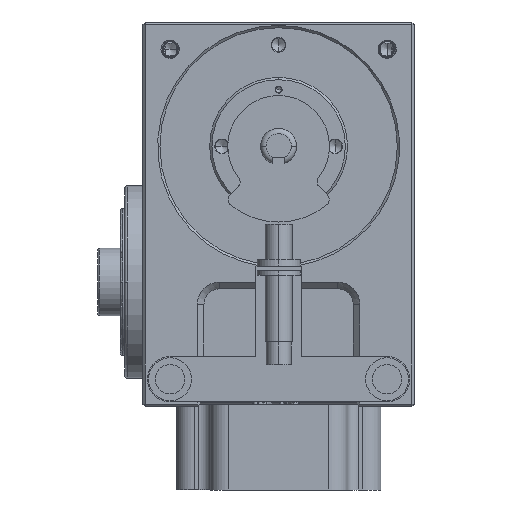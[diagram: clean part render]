
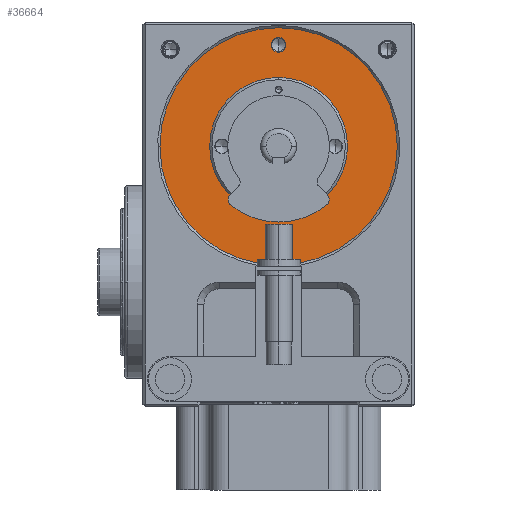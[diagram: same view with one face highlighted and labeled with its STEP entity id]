
A CAD part, left-side view. The second image highlights one B-rep face of the part: STEP entity #36664.
In plain terms, the highlighted planar face has unit normal (-1, 0, 0).
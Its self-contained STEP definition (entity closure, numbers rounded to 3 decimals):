
#2998 = DIRECTION ( 'NONE',  ( 0., -1., 0. ) ) ;
#3156 = AXIS2_PLACEMENT_3D ( 'NONE', #175864, #89046, #2998 ) ;
#9456 = CIRCLE ( 'NONE', #122019, 30.5 ) ;
#10183 = EDGE_LOOP ( 'NONE', ( #61128, #124526 ) ) ;
#10939 = DIRECTION ( 'NONE',  ( 0., 0., -1. ) ) ;
#12527 = CIRCLE ( 'NONE', #156099, 30.5 ) ;
#14605 = VERTEX_POINT ( 'NONE', #60971 ) ;
#20486 = AXIS2_PLACEMENT_3D ( 'NONE', #112021, #25722, #126603 ) ;
#22282 = DIRECTION ( 'NONE',  ( -1., 0., 0. ) ) ;
#25381 = EDGE_LOOP ( 'NONE', ( #124784, #158789 ) ) ;
#25722 = DIRECTION ( 'NONE',  ( -1., 0., 0. ) ) ;
#27286 = FACE_OUTER_BOUND ( 'NONE', #25381, .T. ) ;
#30463 = VERTEX_POINT ( 'NONE', #47532 ) ;
#31021 = CARTESIAN_POINT ( 'NONE',  ( -121., 3.25, 44.929 ) ) ;
#35375 = CIRCLE ( 'NONE', #37763, 52.5 ) ;
#35856 = EDGE_CURVE ( 'NONE', #30463, #14605, #9456, .T. ) ;
#36664 = ADVANCED_FACE ( 'NONE', ( #142523, #112972, #65438, #27286 ), #122451, .T. ) ;
#37502 = EDGE_CURVE ( 'NONE', #123770, #99764, #180757, .T. ) ;
#37763 = AXIS2_PLACEMENT_3D ( 'NONE', #69543, #170988, #84069 ) ;
#41545 = DIRECTION ( 'NONE',  ( 1., 0., 0. ) ) ;
#42873 = EDGE_CURVE ( 'NONE', #101261, #178382, #35375, .T. ) ;
#47532 = CARTESIAN_POINT ( 'NONE',  ( -121., 0., -30.5 ) ) ;
#51604 = CARTESIAN_POINT ( 'NONE',  ( -121., -3.25, 44.929 ) ) ;
#60971 = CARTESIAN_POINT ( 'NONE',  ( -121., 0., 30.5 ) ) ;
#61128 = ORIENTED_EDGE ( 'NONE', *, *, #102278, .T. ) ;
#63815 = EDGE_CURVE ( 'NONE', #99764, #123770, #85029, .T. ) ;
#65412 = CARTESIAN_POINT ( 'NONE',  ( -121., 0., 44.929 ) ) ;
#65438 = FACE_BOUND ( 'NONE', #149616, .T. ) ;
#67736 = CIRCLE ( 'NONE', #20486, 52.5 ) ;
#68063 = DIRECTION ( 'NONE',  ( 1., 0., 0. ) ) ;
#69543 = CARTESIAN_POINT ( 'NONE',  ( -121., 0., 0. ) ) ;
#74309 = DIRECTION ( 'NONE',  ( 1., 0., 0. ) ) ;
#75542 = ORIENTED_EDGE ( 'NONE', *, *, #132893, .T. ) ;
#79844 = DIRECTION ( 'NONE',  ( 0., -1., 0. ) ) ;
#80761 = ORIENTED_EDGE ( 'NONE', *, *, #35856, .T. ) ;
#84069 = DIRECTION ( 'NONE',  ( 0., 0., 1. ) ) ;
#85029 = CIRCLE ( 'NONE', #105542, 3.25 ) ;
#85193 = VERTEX_POINT ( 'NONE', #31021 ) ;
#88669 = CARTESIAN_POINT ( 'NONE',  ( -121., 0., 52.5 ) ) ;
#89046 = DIRECTION ( 'NONE',  ( 1., 0., 0. ) ) ;
#90552 = CARTESIAN_POINT ( 'NONE',  ( -121., 0., -41.75 ) ) ;
#91113 = CIRCLE ( 'NONE', #162259, 3.25 ) ;
#97060 = DIRECTION ( 'NONE',  ( 1., 0., 0. ) ) ;
#99764 = VERTEX_POINT ( 'NONE', #90552 ) ;
#100111 = EDGE_CURVE ( 'NONE', #178382, #101261, #67736, .T. ) ;
#101261 = VERTEX_POINT ( 'NONE', #88669 ) ;
#102278 = EDGE_CURVE ( 'NONE', #158041, #85193, #164926, .T. ) ;
#105542 = AXIS2_PLACEMENT_3D ( 'NONE', #128040, #41545, #142650 ) ;
#108484 = CARTESIAN_POINT ( 'NONE',  ( -121., -60., -115. ) ) ;
#112021 = CARTESIAN_POINT ( 'NONE',  ( -121., 0., 0. ) ) ;
#112972 = FACE_BOUND ( 'NONE', #152662, .T. ) ;
#122019 = AXIS2_PLACEMENT_3D ( 'NONE', #183784, #97060, #10939 ) ;
#122451 = PLANE ( 'NONE',  #152600 ) ;
#123071 = DIRECTION ( 'NONE',  ( 0., 0., 1. ) ) ;
#123770 = VERTEX_POINT ( 'NONE', #125824 ) ;
#124526 = ORIENTED_EDGE ( 'NONE', *, *, #133661, .T. ) ;
#124784 = ORIENTED_EDGE ( 'NONE', *, *, #42873, .T. ) ;
#125824 = CARTESIAN_POINT ( 'NONE',  ( -121., 0., -48.25 ) ) ;
#126603 = DIRECTION ( 'NONE',  ( 0., 0., 1. ) ) ;
#128040 = CARTESIAN_POINT ( 'NONE',  ( -121., 0., -45. ) ) ;
#128240 = ORIENTED_EDGE ( 'NONE', *, *, #37502, .T. ) ;
#132893 = EDGE_CURVE ( 'NONE', #14605, #30463, #12527, .T. ) ;
#133661 = EDGE_CURVE ( 'NONE', #85193, #158041, #91113, .T. ) ;
#141562 = CARTESIAN_POINT ( 'NONE',  ( -121., 0., -52.5 ) ) ;
#141786 = ORIENTED_EDGE ( 'NONE', *, *, #63815, .T. ) ;
#142523 = FACE_BOUND ( 'NONE', #10183, .T. ) ;
#142650 = DIRECTION ( 'NONE',  ( 0., 0., 1. ) ) ;
#149616 = EDGE_LOOP ( 'NONE', ( #80761, #75542 ) ) ;
#152600 = AXIS2_PLACEMENT_3D ( 'NONE', #108484, #22282, #123071 ) ;
#152662 = EDGE_LOOP ( 'NONE', ( #141786, #128240 ) ) ;
#154918 = CARTESIAN_POINT ( 'NONE',  ( -121., 0., 0. ) ) ;
#156099 = AXIS2_PLACEMENT_3D ( 'NONE', #154918, #68063, #169493 ) ;
#158041 = VERTEX_POINT ( 'NONE', #51604 ) ;
#158789 = ORIENTED_EDGE ( 'NONE', *, *, #100111, .T. ) ;
#161283 = CARTESIAN_POINT ( 'NONE',  ( -121., 0., -45. ) ) ;
#162259 = AXIS2_PLACEMENT_3D ( 'NONE', #65412, #166834, #79844 ) ;
#164926 = CIRCLE ( 'NONE', #3156, 3.25 ) ;
#165671 = AXIS2_PLACEMENT_3D ( 'NONE', #161283, #74309, #175720 ) ;
#166834 = DIRECTION ( 'NONE',  ( 1., 0., 0. ) ) ;
#169493 = DIRECTION ( 'NONE',  ( 0., 0., -1. ) ) ;
#170988 = DIRECTION ( 'NONE',  ( -1., 0., 0. ) ) ;
#175720 = DIRECTION ( 'NONE',  ( 0., 0., 1. ) ) ;
#175864 = CARTESIAN_POINT ( 'NONE',  ( -121., 0., 44.929 ) ) ;
#178382 = VERTEX_POINT ( 'NONE', #141562 ) ;
#180757 = CIRCLE ( 'NONE', #165671, 3.25 ) ;
#183784 = CARTESIAN_POINT ( 'NONE',  ( -121., 0., 0. ) ) ;
